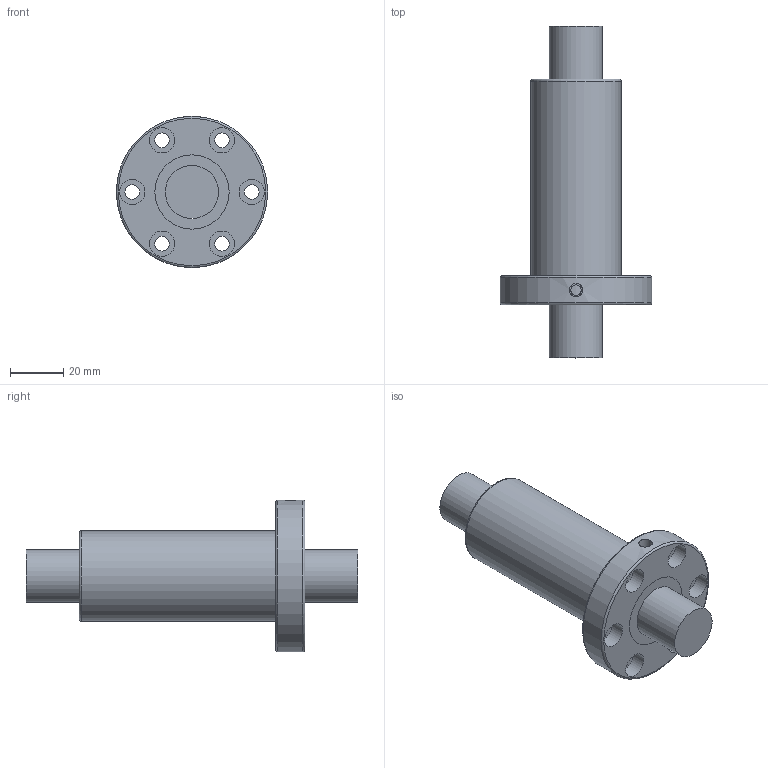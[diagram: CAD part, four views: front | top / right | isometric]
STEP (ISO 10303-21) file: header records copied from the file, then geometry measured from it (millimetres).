
FILE_DESCRIPTION(/* description */ (''),/* implementation_level */ '2;1');
FILE_NAME(/* name */ 'OFI02005-4.stp',/* time_stamp */ '2017-03-13T10:42:16+08:00',/* author */ (''),/* organization */ (''),/* preprocessor_version */ 'ST-DEVELOPER v11',/* originating_system */ 'SIEMENS UGS NX 6.0',/* authorisation */ '');
FILE_SCHEMA (('CONFIG_CONTROL_DESIGN'));
Length unit declared in the file: millimetre
Products named in the file (1): OFI02005-4
Bounding box: 57 x 125 x 57 mm (x, y, z)
Volume: 104378.3 mm3; surface area: 31956.1 mm2
Topology: 4 solids, 4 shells, 45 faces, 82 edges, 54 vertices
Faces by surface type: cylinder 24, plane 18, torus 3
Full cylindrical faces by diameter (mm): 3.99 x1, 5 x1, 5.5 x6, 9.5 x6, 20 x4, 28 x4, 34 x1, 57 x1
Entity records: 1192 total; most frequent: CARTESIAN_POINT 262, DIRECTION 190, EDGE_LOOP 102, ORIENTED_EDGE 102, FACE_BOUND 100, AXIS2_PLACEMENT_3D 95, VERTEX_POINT 51, EDGE_CURVE 51
